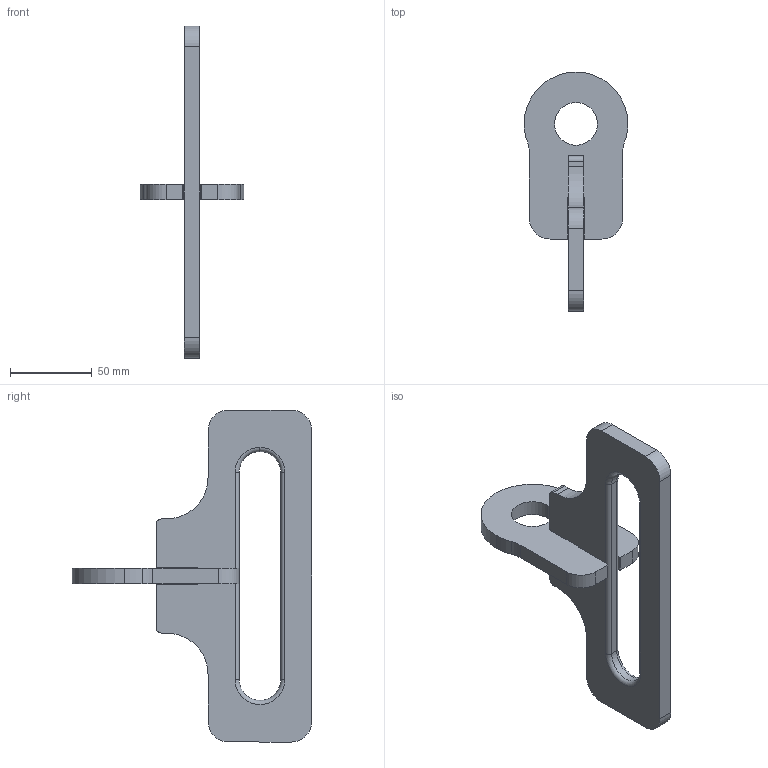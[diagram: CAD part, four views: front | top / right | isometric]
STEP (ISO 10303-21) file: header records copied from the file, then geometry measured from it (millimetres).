
FILE_DESCRIPTION (( 'STEP AP214' ), '1' );
FILE_NAME ('OBH-HANGER-2.STEP', '2024-02-19T15:10:41', ( '' ), ( '' ), 'SwSTEP 2.0', 'SolidWorks 2023', '' );
FILE_SCHEMA (( 'AUTOMOTIVE_DESIGN' ));
Length unit declared in the file: inch
Products named in the file (3): OBH-HANGER-2; OT005018 - .375 inch; OT005017 - .375 inch
Assembly tree (2 placements, depth 2):
  OBH-HANGER-2
    OT005017 - .375 inch
    OT005018 - .375 inch
Bounding box: 63.5 x 146.69 x 203.2 mm (x, y, z)
Volume: 152212.1 mm3; surface area: 44338.9 mm2
Topology: 2 solids, 2 shells, 59 faces, 155 edges, 100 vertices
Faces by surface type: cylinder 28, plane 25, torus 6
Entity records: 1939 total; most frequent: DIRECTION 347, CARTESIAN_POINT 319, ORIENTED_EDGE 310, EDGE_CURVE 155, AXIS2_PLACEMENT_3D 128, VERTEX_POINT 100, LINE 91, VECTOR 91
